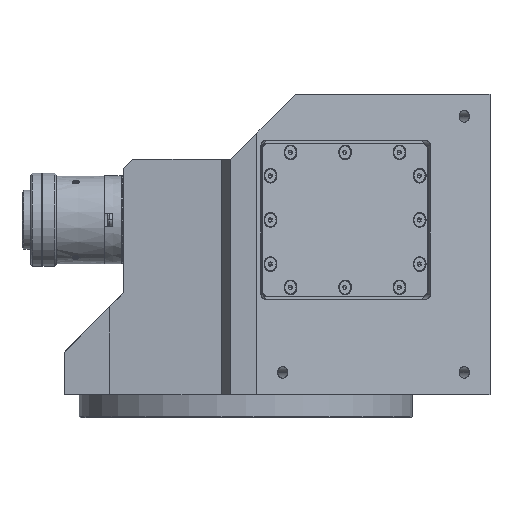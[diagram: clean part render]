
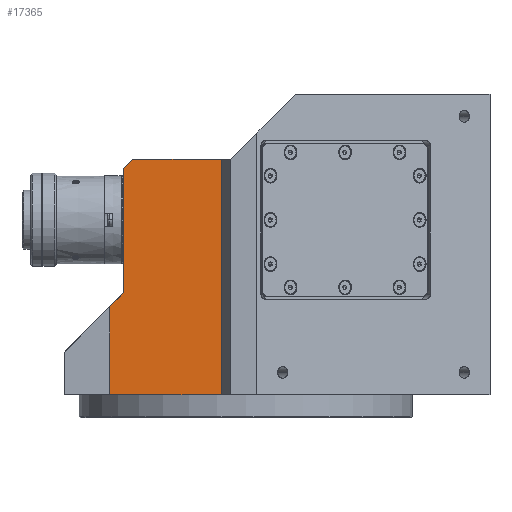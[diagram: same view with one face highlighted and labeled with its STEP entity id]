
A CAD part, front view. The second image highlights one B-rep face of the part: STEP entity #17365.
In plain terms, the highlighted free-form (B-spline) face has degree [1, 1] with [2, 2] control points.
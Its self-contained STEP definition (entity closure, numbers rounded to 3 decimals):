
#17365 = ADVANCED_FACE('',(#17366),#17380,.T.);
#17366 = FACE_BOUND('',#17367,.T.);
#17367 = EDGE_LOOP('',(#17368,#17390,#17405,#17420,#17435,#17450,#17465)
  );
#17368 = ORIENTED_EDGE('',*,*,#17369,.T.);
#17369 = EDGE_CURVE('',#17370,#17372,#17374,.T.);
#17370 = VERTEX_POINT('',#17371);
#17371 = CARTESIAN_POINT('',(-52.534,-85.,104.));
#17372 = VERTEX_POINT('',#17373);
#17373 = CARTESIAN_POINT('',(-48.534,-85.,108.));
#17374 = SURFACE_CURVE('',#17375,(#17379),.PCURVE_S1.);
#17375 = LINE('',#17376,#17377);
#17376 = CARTESIAN_POINT('',(-52.534,-85.,104.));
#17377 = VECTOR('',#17378,1.);
#17378 = DIRECTION('',(0.707,0.,0.707));
#17379 = PCURVE('',#17380,#17385);
#17380 = B_SPLINE_SURFACE_WITH_KNOTS('',1,1,(
    (#17381,#17382)
    ,(#17383,#17384
    )),.UNSPECIFIED.,.F.,.F.,.F.,(2,2),(2,2),(0.,1.),(0.,1.),
  .PIECEWISE_BEZIER_KNOTS.);
#17381 = CARTESIAN_POINT('',(-58.527,-85.,7.));
#17382 = CARTESIAN_POINT('',(-10.523,-85.,7.));
#17383 = CARTESIAN_POINT('',(-58.527,-85.,108.));
#17384 = CARTESIAN_POINT('',(-10.523,-85.,108.));
#17385 = DEFINITIONAL_REPRESENTATION('',(#17386),#17389);
#17386 = B_SPLINE_CURVE_WITH_KNOTS('',1,(#17387,#17388),.UNSPECIFIED.,
  .F.,.F.,(2,2),(0.,5.657),.PIECEWISE_BEZIER_KNOTS.);
#17387 = CARTESIAN_POINT('',(0.96,0.125));
#17388 = CARTESIAN_POINT('',(1.,0.208));
#17389 = ( GEOMETRIC_REPRESENTATION_CONTEXT(2) 
PARAMETRIC_REPRESENTATION_CONTEXT() REPRESENTATION_CONTEXT('',''
  ) );
#17390 = ORIENTED_EDGE('',*,*,#17391,.T.);
#17391 = EDGE_CURVE('',#17372,#17392,#17394,.T.);
#17392 = VERTEX_POINT('',#17393);
#17393 = CARTESIAN_POINT('',(-10.523,-85.,108.));
#17394 = SURFACE_CURVE('',#17395,(#17399),.PCURVE_S1.);
#17395 = LINE('',#17396,#17397);
#17396 = CARTESIAN_POINT('',(-48.534,-85.,108.));
#17397 = VECTOR('',#17398,1.);
#17398 = DIRECTION('',(1.,0.,0.));
#17399 = PCURVE('',#17380,#17400);
#17400 = DEFINITIONAL_REPRESENTATION('',(#17401),#17404);
#17401 = B_SPLINE_CURVE_WITH_KNOTS('',1,(#17402,#17403),.UNSPECIFIED.,
  .F.,.F.,(2,2),(0.,38.011),.PIECEWISE_BEZIER_KNOTS.);
#17402 = CARTESIAN_POINT('',(1.,0.208));
#17403 = CARTESIAN_POINT('',(1.,1.));
#17404 = ( GEOMETRIC_REPRESENTATION_CONTEXT(2) 
PARAMETRIC_REPRESENTATION_CONTEXT() REPRESENTATION_CONTEXT('',''
  ) );
#17405 = ORIENTED_EDGE('',*,*,#17406,.T.);
#17406 = EDGE_CURVE('',#17392,#17407,#17409,.T.);
#17407 = VERTEX_POINT('',#17408);
#17408 = CARTESIAN_POINT('',(-10.523,-85.,7.));
#17409 = SURFACE_CURVE('',#17410,(#17414),.PCURVE_S1.);
#17410 = LINE('',#17411,#17412);
#17411 = CARTESIAN_POINT('',(-10.523,-85.,108.));
#17412 = VECTOR('',#17413,1.);
#17413 = DIRECTION('',(0.,0.,-1.));
#17414 = PCURVE('',#17380,#17415);
#17415 = DEFINITIONAL_REPRESENTATION('',(#17416),#17419);
#17416 = B_SPLINE_CURVE_WITH_KNOTS('',1,(#17417,#17418),.UNSPECIFIED.,
  .F.,.F.,(2,2),(0.,101.),.PIECEWISE_BEZIER_KNOTS.);
#17417 = CARTESIAN_POINT('',(1.,1.));
#17418 = CARTESIAN_POINT('',(0.,1.));
#17419 = ( GEOMETRIC_REPRESENTATION_CONTEXT(2) 
PARAMETRIC_REPRESENTATION_CONTEXT() REPRESENTATION_CONTEXT('',''
  ) );
#17420 = ORIENTED_EDGE('',*,*,#17421,.T.);
#17421 = EDGE_CURVE('',#17407,#17422,#17424,.T.);
#17422 = VERTEX_POINT('',#17423);
#17423 = CARTESIAN_POINT('',(-58.527,-85.,7.));
#17424 = SURFACE_CURVE('',#17425,(#17429),.PCURVE_S1.);
#17425 = LINE('',#17426,#17427);
#17426 = CARTESIAN_POINT('',(-10.523,-85.,7.));
#17427 = VECTOR('',#17428,1.);
#17428 = DIRECTION('',(-1.,0.,0.));
#17429 = PCURVE('',#17380,#17430);
#17430 = DEFINITIONAL_REPRESENTATION('',(#17431),#17434);
#17431 = B_SPLINE_CURVE_WITH_KNOTS('',1,(#17432,#17433),.UNSPECIFIED.,
  .F.,.F.,(2,2),(0.,48.004),.PIECEWISE_BEZIER_KNOTS.);
#17432 = CARTESIAN_POINT('',(0.,1.));
#17433 = CARTESIAN_POINT('',(0.,0.));
#17434 = ( GEOMETRIC_REPRESENTATION_CONTEXT(2) 
PARAMETRIC_REPRESENTATION_CONTEXT() REPRESENTATION_CONTEXT('',''
  ) );
#17435 = ORIENTED_EDGE('',*,*,#17436,.T.);
#17436 = EDGE_CURVE('',#17422,#17437,#17439,.T.);
#17437 = VERTEX_POINT('',#17438);
#17438 = CARTESIAN_POINT('',(-58.527,-85.,44.686));
#17439 = SURFACE_CURVE('',#17440,(#17444),.PCURVE_S1.);
#17440 = LINE('',#17441,#17442);
#17441 = CARTESIAN_POINT('',(-58.527,-85.,7.));
#17442 = VECTOR('',#17443,1.);
#17443 = DIRECTION('',(0.,0.,1.));
#17444 = PCURVE('',#17380,#17445);
#17445 = DEFINITIONAL_REPRESENTATION('',(#17446),#17449);
#17446 = B_SPLINE_CURVE_WITH_KNOTS('',1,(#17447,#17448),.UNSPECIFIED.,
  .F.,.F.,(2,2),(0.,37.686),.PIECEWISE_BEZIER_KNOTS.);
#17447 = CARTESIAN_POINT('',(0.,0.));
#17448 = CARTESIAN_POINT('',(0.373,0.));
#17449 = ( GEOMETRIC_REPRESENTATION_CONTEXT(2) 
PARAMETRIC_REPRESENTATION_CONTEXT() REPRESENTATION_CONTEXT('',''
  ) );
#17450 = ORIENTED_EDGE('',*,*,#17451,.T.);
#17451 = EDGE_CURVE('',#17437,#17452,#17454,.T.);
#17452 = VERTEX_POINT('',#17453);
#17453 = CARTESIAN_POINT('',(-52.534,-85.,50.679));
#17454 = SURFACE_CURVE('',#17455,(#17459),.PCURVE_S1.);
#17455 = LINE('',#17456,#17457);
#17456 = CARTESIAN_POINT('',(-58.527,-85.,44.686));
#17457 = VECTOR('',#17458,1.);
#17458 = DIRECTION('',(0.707,0.,0.707));
#17459 = PCURVE('',#17380,#17460);
#17460 = DEFINITIONAL_REPRESENTATION('',(#17461),#17464);
#17461 = B_SPLINE_CURVE_WITH_KNOTS('',1,(#17462,#17463),.UNSPECIFIED.,
  .F.,.F.,(2,2),(0.,8.476),.PIECEWISE_BEZIER_KNOTS.);
#17462 = CARTESIAN_POINT('',(0.373,0.));
#17463 = CARTESIAN_POINT('',(0.432,0.125));
#17464 = ( GEOMETRIC_REPRESENTATION_CONTEXT(2) 
PARAMETRIC_REPRESENTATION_CONTEXT() REPRESENTATION_CONTEXT('',''
  ) );
#17465 = ORIENTED_EDGE('',*,*,#17466,.T.);
#17466 = EDGE_CURVE('',#17452,#17370,#17467,.T.);
#17467 = SURFACE_CURVE('',#17468,(#17472),.PCURVE_S1.);
#17468 = LINE('',#17469,#17470);
#17469 = CARTESIAN_POINT('',(-52.534,-85.,50.679));
#17470 = VECTOR('',#17471,1.);
#17471 = DIRECTION('',(0.,0.,1.));
#17472 = PCURVE('',#17380,#17473);
#17473 = DEFINITIONAL_REPRESENTATION('',(#17474),#17477);
#17474 = B_SPLINE_CURVE_WITH_KNOTS('',1,(#17475,#17476),.UNSPECIFIED.,
  .F.,.F.,(2,2),(0.,53.321),.PIECEWISE_BEZIER_KNOTS.);
#17475 = CARTESIAN_POINT('',(0.432,0.125));
#17476 = CARTESIAN_POINT('',(0.96,0.125));
#17477 = ( GEOMETRIC_REPRESENTATION_CONTEXT(2) 
PARAMETRIC_REPRESENTATION_CONTEXT() REPRESENTATION_CONTEXT('',''
  ) );
